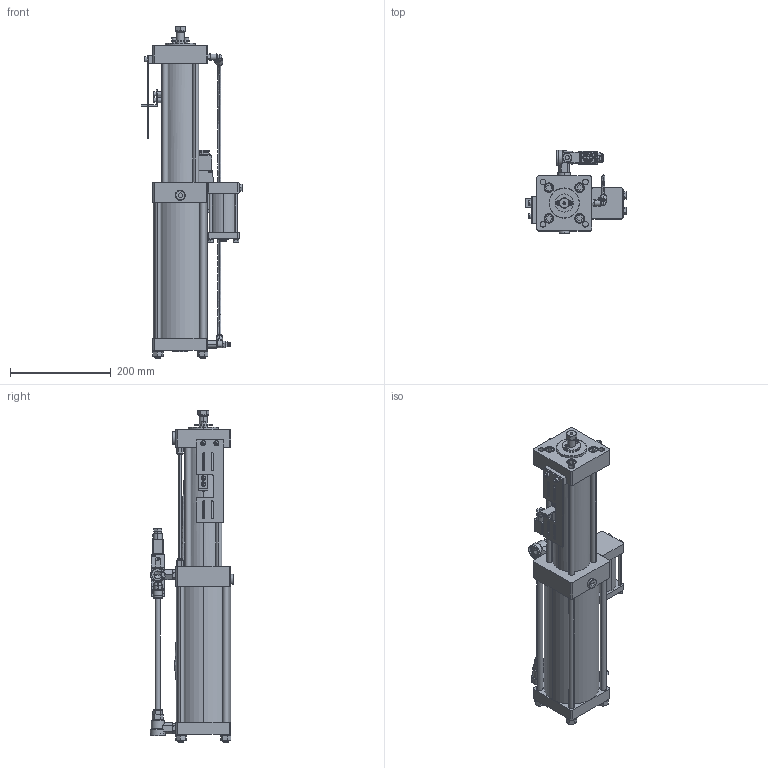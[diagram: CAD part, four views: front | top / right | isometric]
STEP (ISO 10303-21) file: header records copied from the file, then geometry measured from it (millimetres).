
FILE_DESCRIPTION (( 'STEP AP203' ), '1' );
FILE_NAME ('PCT5 10036 VC17.STEP', '2017-12-05T08:43:45', ( '' ), ( '' ), 'SwSTEP 2.0', 'SolidWorks 2015', '' );
FILE_SCHEMA (( 'CONFIG_CONTROL_DESIGN' ));
Length unit declared in the file: millimetre
Products named in the file (39): CONTAINER PRA-03; GASKET; hexagon nut style 1_is_IS 1364-3 - M12-W-N; Part1^PCT; Part2^PCT; plain washer (type a)_is_IS 2016 A- 9; INT TUBE; PCT5 10036 VC17; 18Janatics-Male elbow_Male threaded nipple_Dia 6 x 18; Janatics-WN015152WN015152_WN015152; hexagon fit bolt_is_IS 3640 - M8 x 25 x 14.5-N; INT FEC; 18Janatics-Male elbow_elbow_DIA 6; Janatics-WN015151WN015151_WN015151; QEV; INT TR; 18Janatics-Male elbow_Collet cap_DIA 6; DC VALVE-Janatics-DEFAULT_DS255SR61; (normal) internal_is_IS 3075(Part2) NI- 26; spring lock washer 6735_is_IS 6735- 6; PCT CYL_PCT5 10036 VC17; 1 8 BSP FCV-Janatics-GR2_GR1105006; Janatics-Male elbow_elbow_DIA 10; 1 4 BSP QEV; hexagon nut_is_IS 1363-2 - M6-N; socket head cap screw_is_IS 2269 - M5 x 8-N; Part3^PCT; Janatics-Male elbow_Collet cap_DIA 10; Janatics-Male connector_housing MC_WP2110650; 3 8 BSP PLUG; socket head cap screw_is_IS 2269 - M6 x 10-N; Part4^PCT; Janatics-Male elbow_Male threaded nipple_Dia 10 x 14; Janatics-Male connector_Collet cap_DIA 6; SILENCER; INT REC; spring lock washer 6735_is_IS 6735- 12; Janatics-Male elbow_Male elbow; 1 8 BSP PU 6_Janatics-Male connector_Male connector
Assembly tree (69 placements, depth 3):
  PCT5 10036 VC17
    PCT CYL_PCT5 10036 VC17
    socket head cap screw_is_IS 2269 - M5 x 8-N  x4
    socket head cap screw_is_IS 2269 - M6 x 10-N  x2
    CONTAINER PRA-03
      INT REC
      GASKET  x2
      INT TUBE
      INT FEC
      INT TR  x4
      spring lock washer 6735_is_IS 6735- 6  x4
      hexagon nut_is_IS 1363-2 - M6-N  x4
      3 8 BSP PLUG
      SILENCER
    plain washer (type a)_is_IS 2016 A- 9  x2
    hexagon fit bolt_is_IS 3640 - M8 x 25 x 14.5-N  x2
    1 4 BSP QEV
      QEV
      (normal) internal_is_IS 3075(Part2) NI- 26
    QEV
    1 8 BSP PU 6_Janatics-Male connector_Male connector  x2
      Janatics-Male connector_housing MC_WP2110650
      Janatics-Male connector_Collet cap_DIA 6
    Part2^PCT
    Janatics-WN015152WN015152_WN015152  x2
    Janatics-WN015151WN015151_WN015151
    DC VALVE-Janatics-DEFAULT_DS255SR61
    (normal) internal_is_IS 3075(Part2) NI- 26
    Janatics-Male elbow_Male elbow
      Janatics-Male elbow_elbow_DIA 10
      Janatics-Male elbow_Collet cap_DIA 10
      Janatics-Male elbow_Male threaded nipple_Dia 10 x 14
    Janatics-Male elbow_Collet cap_DIA 10  x2
    Janatics-Male elbow_Male threaded nipple_Dia 10 x 14  x2
    Part1^PCT
    SILENCER  x2
    18Janatics-Male elbow_Male threaded nipple_Dia 6 x 18
    18Janatics-Male elbow_elbow_DIA 6
    18Janatics-Male elbow_Collet cap_DIA 6
    1 8 BSP FCV-Janatics-GR2_GR1105006
    Part4^PCT
    spring lock washer 6735_is_IS 6735- 12  x4
    hexagon nut style 1_is_IS 1364-3 - M12-W-N  x4
  Part3^PCT
Bounding box: 200.6 x 166 x 659 mm (x, y, z)
Volume: 5306205 mm3; surface area: 640340.3 mm2
Topology: 87 solids, 88 shells, 4349 faces, 10948 edges, 6919 vertices
Faces by surface type: plane 1938, cylinder 1342, cone 732, torus 177, bspline 145, sphere 15
Entity records: 107594 total; most frequent: CARTESIAN_POINT 25833, ORIENTED_EDGE 16104, DIRECTION 15987, EDGE_CURVE 8052, AXIS2_PLACEMENT_3D 5844, VERTEX_POINT 5148, VECTOR 4299, LINE 4299
